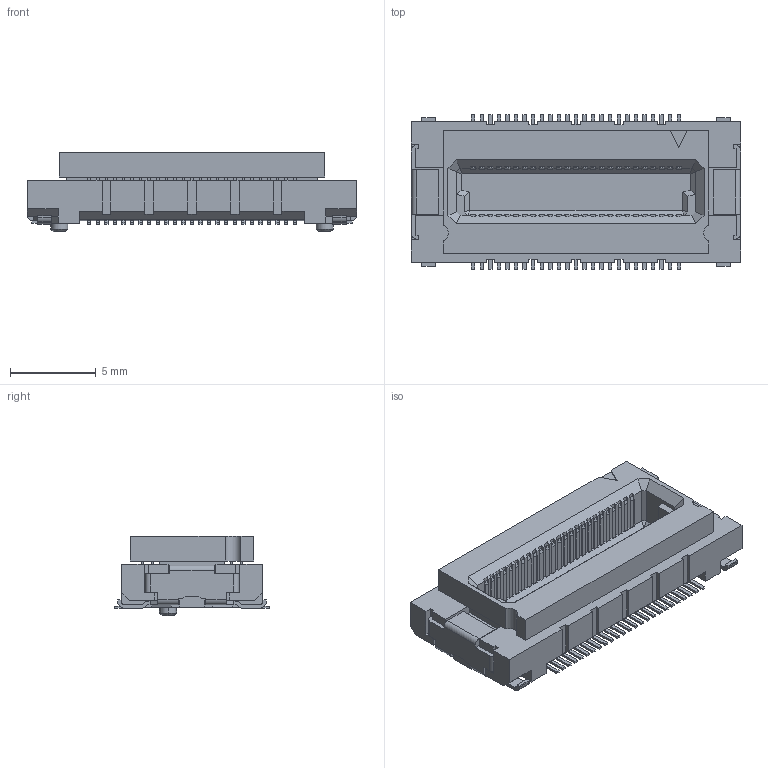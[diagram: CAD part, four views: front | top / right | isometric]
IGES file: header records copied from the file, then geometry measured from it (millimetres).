
Start section: Elysium IGES Interface
Global section: file name: 106HG:\その他\DY関連\CAD\依頼書（ウェブ）_HP用データ\60-36-0111_DY03-DY04\DY03-050S-BT\P3E374_DY03-050S-BT.igs; native system: Creo Elements/Direct Modeling 20.4A  18-Oct-2021; preprocessor: Creo Element/Direct IGES_3D V2.2; author: Unknown; organization: Unknown; date: 20220228.184124; units: millimetre
Bounding box: 19.2 x 9 x 4.65 mm (x, y, z)
Volume: 406 mm3; surface area: 911.9 mm2
Topology: 1 solids, 1 shells, 2281 faces, 6397 edges, 4222 vertices
Faces by surface type: bspline 2281
